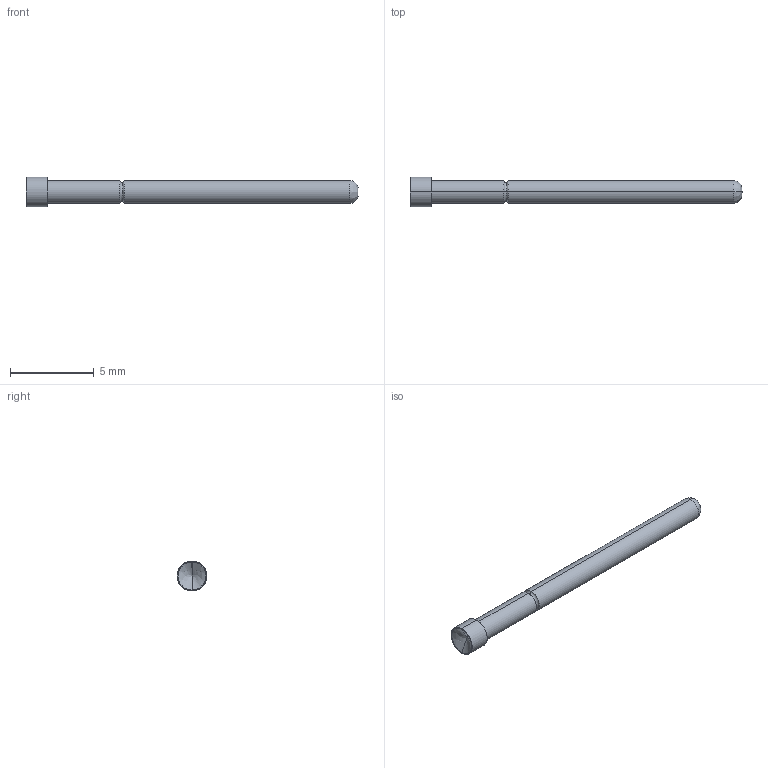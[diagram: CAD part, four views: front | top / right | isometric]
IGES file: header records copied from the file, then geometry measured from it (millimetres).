
Start section: SolidWorks IGES file using analytic representation for surfaces
Global section: file name: O:\PYLON\IGES FILES\P2664\P2664G-4V1S FULL.IGS; native system: SolidWorks 2015; preprocessor: SolidWorks 2015; author: kgolden; date: 171019.120708; units: inch
Bounding box: 19.83 x 1.78 x 1.78 mm (x, y, z)
Surface area: 96.9 mm2 (no closed solid volume)
Topology: 0 solids, 0 shells, 22 faces, 216 edges, 214 vertices
Faces by surface type: revolution 12, bspline 10
